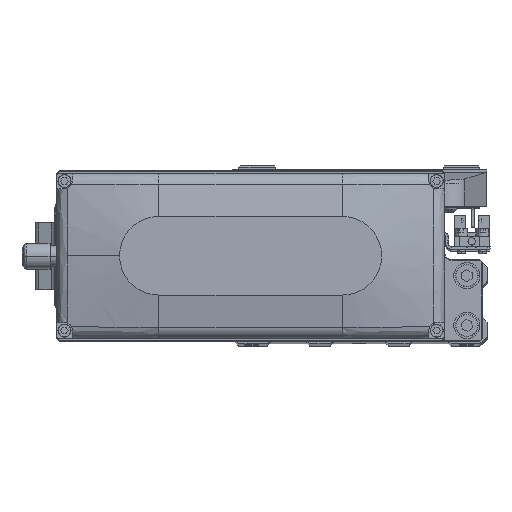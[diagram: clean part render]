
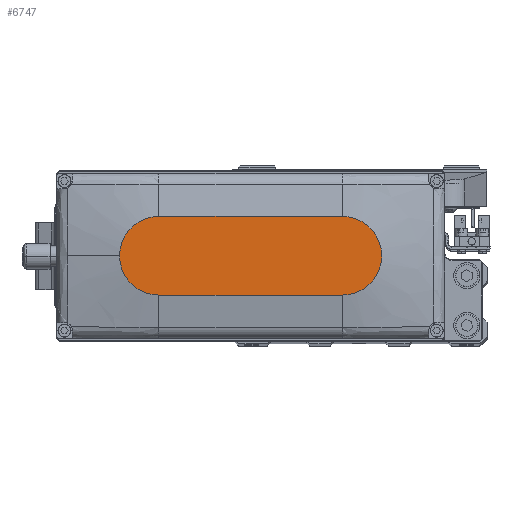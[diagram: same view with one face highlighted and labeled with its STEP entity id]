
A CAD part, top view. The second image highlights one B-rep face of the part: STEP entity #6747.
In plain terms, the highlighted planar face has unit normal (0, 0, 1).
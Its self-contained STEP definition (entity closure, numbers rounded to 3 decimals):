
#787 = EDGE_LOOP ( 'NONE', ( #3044, #25016, #18012, #9663, #41892 ) ) ;
#1347 = CIRCLE ( 'NONE', #7125, 15. ) ;
#1814 = DIRECTION ( 'NONE',  ( 0., 0., 1. ) ) ;
#2157 = EDGE_CURVE ( 'NONE', #41975, #24162, #42105, .T. ) ;
#2544 = EDGE_CURVE ( 'NONE', #31759, #41975, #13421, .T. ) ;
#2786 = DIRECTION ( 'NONE',  ( -1., 0., 0. ) ) ;
#3044 = ORIENTED_EDGE ( 'NONE', *, *, #30965, .T. ) ;
#3374 = DIRECTION ( 'NONE',  ( 1., 0., 0. ) ) ;
#3936 = DIRECTION ( 'NONE',  ( 0., 0., 1. ) ) ;
#5224 = FACE_OUTER_BOUND ( 'NONE', #787, .T. ) ;
#6747 = ADVANCED_FACE ( 'NONE', ( #5224 ), #19061, .T. ) ;
#7125 = AXIS2_PLACEMENT_3D ( 'NONE', #20616, #34495, #3374 ) ;
#8370 = CARTESIAN_POINT ( 'NONE',  ( -35., -15., 35. ) ) ;
#9663 = ORIENTED_EDGE ( 'NONE', *, *, #2157, .T. ) ;
#11358 = CARTESIAN_POINT ( 'NONE',  ( 35., 15., 35. ) ) ;
#12947 = AXIS2_PLACEMENT_3D ( 'NONE', #35057, #3936, #17770 ) ;
#13421 = LINE ( 'NONE', #27272, #13887 ) ;
#13753 = DIRECTION ( 'NONE',  ( 0., 0., 1. ) ) ;
#13887 = VECTOR ( 'NONE', #41147, 1000. ) ;
#15672 = DIRECTION ( 'NONE',  ( 1., 0., 0. ) ) ;
#16771 = VERTEX_POINT ( 'NONE', #11358 ) ;
#16960 = VERTEX_POINT ( 'NONE', #23346 ) ;
#17770 = DIRECTION ( 'NONE',  ( 1., 0., 0. ) ) ;
#18012 = ORIENTED_EDGE ( 'NONE', *, *, #2544, .T. ) ;
#18342 = EDGE_CURVE ( 'NONE', #16960, #31759, #1347, .T. ) ;
#19061 = PLANE ( 'NONE',  #23555 ) ;
#20022 = LINE ( 'NONE', #33904, #24811 ) ;
#20616 = CARTESIAN_POINT ( 'NONE',  ( -35., 0., 35. ) ) ;
#23346 = CARTESIAN_POINT ( 'NONE',  ( -35., 15., 35. ) ) ;
#23555 = AXIS2_PLACEMENT_3D ( 'NONE', #32937, #1814, #15672 ) ;
#24162 = VERTEX_POINT ( 'NONE', #40888 ) ;
#24811 = VECTOR ( 'NONE', #2786, 1000. ) ;
#25016 = ORIENTED_EDGE ( 'NONE', *, *, #18342, .T. ) ;
#27272 = CARTESIAN_POINT ( 'NONE',  ( -35., -15., 35. ) ) ;
#27604 = DIRECTION ( 'NONE',  ( 1., 0., 0. ) ) ;
#30828 = CARTESIAN_POINT ( 'NONE',  ( 35., -15., 35. ) ) ;
#30965 = EDGE_CURVE ( 'NONE', #16771, #16960, #20022, .T. ) ;
#31759 = VERTEX_POINT ( 'NONE', #8370 ) ;
#32549 = CIRCLE ( 'NONE', #12947, 15. ) ;
#32937 = CARTESIAN_POINT ( 'NONE',  ( 0., 0., 35. ) ) ;
#33904 = CARTESIAN_POINT ( 'NONE',  ( -35., 15., 35. ) ) ;
#34495 = DIRECTION ( 'NONE',  ( 0., 0., 1. ) ) ;
#35057 = CARTESIAN_POINT ( 'NONE',  ( 35., 0., 35. ) ) ;
#38802 = EDGE_CURVE ( 'NONE', #24162, #16771, #32549, .T. ) ;
#40888 = CARTESIAN_POINT ( 'NONE',  ( 50., 0., 35. ) ) ;
#41147 = DIRECTION ( 'NONE',  ( 1., 0., 0. ) ) ;
#41451 = AXIS2_PLACEMENT_3D ( 'NONE', #44880, #13753, #27604 ) ;
#41892 = ORIENTED_EDGE ( 'NONE', *, *, #38802, .T. ) ;
#41975 = VERTEX_POINT ( 'NONE', #30828 ) ;
#42105 = CIRCLE ( 'NONE', #41451, 15. ) ;
#44880 = CARTESIAN_POINT ( 'NONE',  ( 35., 0., 35. ) ) ;
